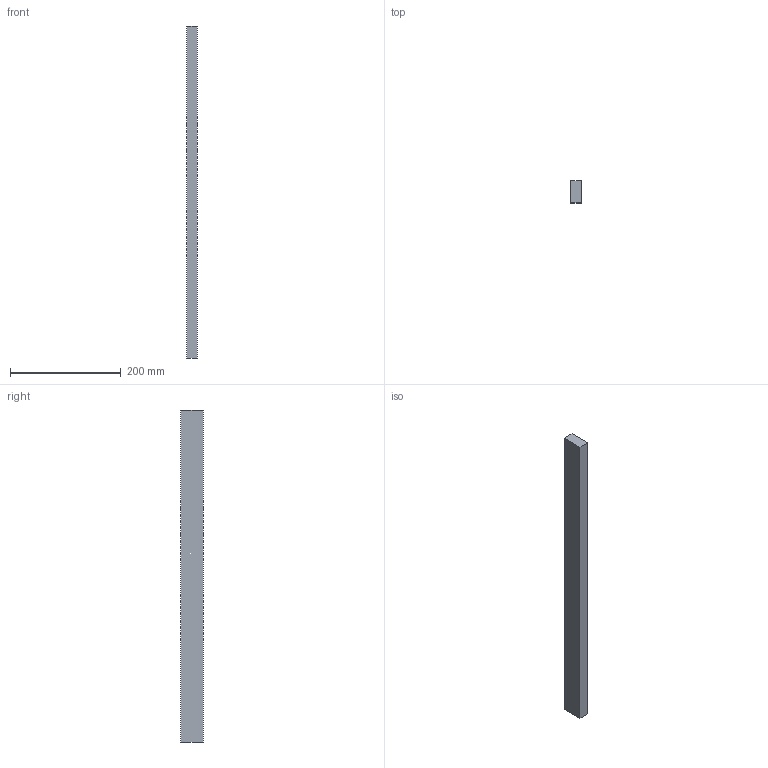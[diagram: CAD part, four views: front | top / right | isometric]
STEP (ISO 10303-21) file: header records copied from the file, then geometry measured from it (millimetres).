
FILE_DESCRIPTION(('Open CASCADE Model'),'2;1');
FILE_NAME('Open CASCADE Shape Model','2026-11-14T16:01:45',('Author'),( 'Open CASCADE'),'Open CASCADE STEP processor 7.9','Open CASCADE 7.9' ,'Unknown');
FILE_SCHEMA(('AUTOMOTIVE_DESIGN { 1 0 10303 214 1 1 1 1 }'));
Length unit declared in the file: millimetre
Products named in the file (1): Open CASCADE STEP translator 7.9 111
Bounding box: 19.8 x 40 x 600 mm (x, y, z)
Volume: 475200 mm3; surface area: 73344 mm2
Topology: 1 solids, 1 shells, 6 faces, 12 edges, 8 vertices
Faces by surface type: plane 6
Entity records: 322 total; most frequent: CARTESIAN_POINT 51, DIRECTION 50, LINE 36, VECTOR 36, ORIENTED_EDGE 24, PCURVE 24, DEFINITIONAL_REPRESENTATION 24, EDGE_CURVE 12
